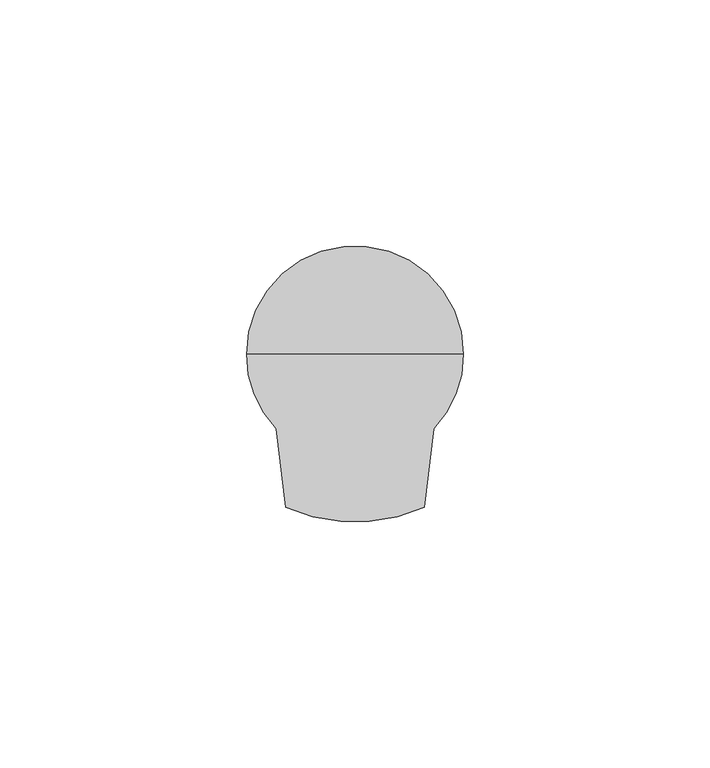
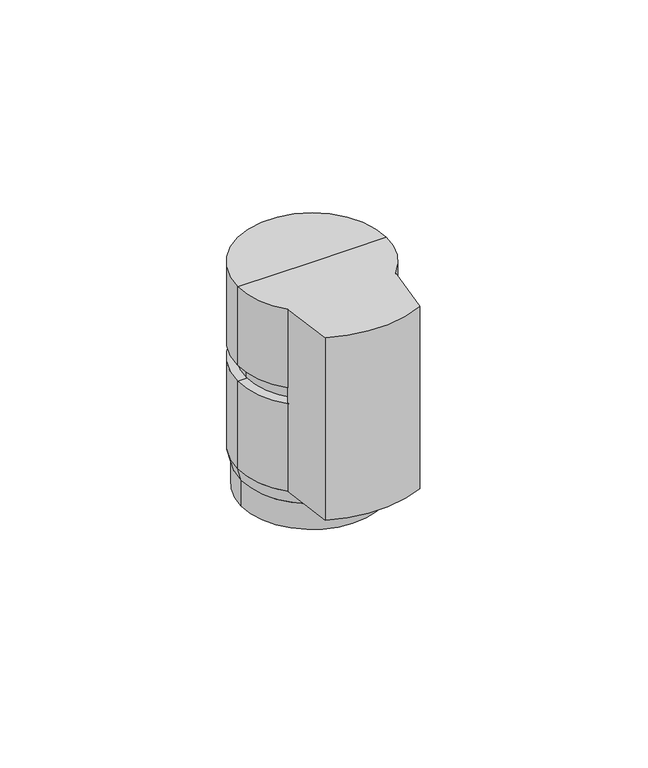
"""IFC4 building model written with IfcOpenShell, lengths in millimetres: valve geometry, 400_56_KOMF_ventiel_electrisch_24-230V : 24V, stroomloos gesloten."""

from ifc_helpers import new_model, si_unit, frame, origin, origin_with_axes, place, context, project, spatial, polyline, circle_curve, source, transform, mapped, element, save
from ifc_brep_helpers import plane_surface, cylinder_surface, revolved_surface, advanced_brep


def valve_dab7beca(model_context):
    return source(origin(), model_context, "Body", "AdvancedBrep", [
        advanced_brep(
        [(-20.950136, 0.0, 0.0), (-18.5, 0.0, 0.0), (18.5, 0.0, 0.0), (20.950136, 0.0, 0.0), (22.0, 0.0, 39.5), (16.0, -15.0996689, 39.5), (16.0, -15.0996689, 12.0), (22.0, 0.0, 12.0), (-22.0, 0.0, 12.0), (-16.0, -15.0996689, 12.0), (-16.0, -15.0996689, 39.5), (-22.0, 0.0, 39.5), (-9.9703428, 0.0, 39.5), (9.9703428, 0.0, 39.5), (9.9703428, 0.0, 44.5), (-9.9703428, 0.0, 44.5), (22.0, 0.0, 44.5), (16.0, -15.0996689, 44.5), (-16.0, -15.0996689, 44.5), (-22.0, 0.0, 44.5), (-16.0, -15.0996689, 69.0), (-22.0, 0.0, 69.0), (22.0, 0.0, 69.0), (16.0, -15.0996689, 69.0), (0.0, 0.0, 69.0), (-14.0, -30.9838668, 69.0), (14.0, -30.9838668, 69.0), (-14.0, -30.9838668, 12.0), (14.0, -30.9838668, 12.0), (20.950136, 0.0, 8.0), (-20.950136, 0.0, 8.0), (-18.5, 0.0, 7.5), (0.0, 0.0, 7.5), (18.5, 0.0, 7.5)],
        [
            (0, 1),
            (1, 2, circle_curve(origin_with_axes(), 18.5)),
            (2, 3),
            (3, 0, circle_curve(frame((0.0, 0.0, 0.0), z_axis=(0.0, 0.0, -1.0), x_axis=(1.0, 0.0, 0.0)), 20.950136)),
            (2, 1, circle_curve(origin_with_axes(), 18.5)),
            (0, 3, circle_curve(frame((0.0, 0.0, 0.0), z_axis=(0.0, 0.0, -1.0), x_axis=(1.0, 0.0, 0.0)), 20.950136)),
            (4, 5, circle_curve(frame((0.0, 0.0, 39.5), z_axis=(0.0, 0.0, -1.0), x_axis=(1.0, 0.0, 0.0)), 22.0)),
            (5, 6),
            (6, 7, circle_curve(frame((0.0, 0.0, 12.0), z_axis=(0.0, 0.0, 1.0), x_axis=(1.0, 0.0, 0.0)), 22.0)),
            (7, 4),
            (8, 9, circle_curve(frame((0.0, 0.0, 12.0), z_axis=(0.0, 0.0, 1.0), x_axis=(1.0, 0.0, 0.0)), 22.0)),
            (9, 10),
            (10, 11, circle_curve(frame((0.0, 0.0, 39.5), z_axis=(0.0, 0.0, -1.0), x_axis=(1.0, 0.0, 0.0)), 22.0)),
            (11, 8),
            (7, 8, circle_curve(frame((0.0, 0.0, 12.0), z_axis=(0.0, 0.0, 1.0), x_axis=(1.0, 0.0, 0.0)), 22.0)),
            (11, 4, circle_curve(frame((0.0, 0.0, 39.5), z_axis=(0.0, 0.0, -1.0), x_axis=(1.0, 0.0, 0.0)), 22.0)),
            (12, 11),
            (10, 5, circle_curve(frame((0.0, 0.0, 39.5), z_axis=(0.0, 0.0, 1.0), x_axis=(1.0, 0.0, 0.0)), 22.0)),
            (4, 13),
            (13, 12, circle_curve(frame((0.0, 0.0, 39.5), z_axis=(0.0, 0.0, -1.0), x_axis=(1.0, 0.0, 0.0)), 9.9703428)),
            (12, 13, circle_curve(frame((0.0, 0.0, 39.5), z_axis=(0.0, 0.0, -1.0), x_axis=(1.0, 0.0, 0.0)), 9.9703428)),
            (13, 14),
            (14, 15, circle_curve(frame((0.0, 0.0, 44.5), z_axis=(0.0, 0.0, -1.0), x_axis=(1.0, 0.0, 0.0)), 9.9703428)),
            (15, 12),
            (15, 14, circle_curve(frame((0.0, 0.0, 44.5), z_axis=(0.0, 0.0, -1.0), x_axis=(1.0, 0.0, 0.0)), 9.9703428)),
            (14, 16),
            (16, 17, circle_curve(frame((0.0, 0.0, 44.5), z_axis=(0.0, 0.0, -1.0), x_axis=(1.0, 0.0, 0.0)), 22.0)),
            (17, 18, circle_curve(frame((0.0, 0.0, 44.5), z_axis=(0.0, 0.0, -1.0), x_axis=(1.0, 0.0, 0.0)), 22.0)),
            (18, 19, circle_curve(frame((0.0, 0.0, 44.5), z_axis=(0.0, 0.0, -1.0), x_axis=(1.0, 0.0, 0.0)), 22.0)),
            (19, 15),
            (19, 16, circle_curve(frame((0.0, 0.0, 44.5), z_axis=(0.0, 0.0, -1.0), x_axis=(1.0, 0.0, 0.0)), 22.0)),
            (18, 20),
            (20, 21, circle_curve(frame((0.0, 0.0, 69.0), z_axis=(0.0, 0.0, -1.0), x_axis=(1.0, 0.0, 0.0)), 22.0)),
            (21, 19),
            (22, 23, circle_curve(frame((0.0, 0.0, 69.0), z_axis=(0.0, 0.0, -1.0), x_axis=(1.0, 0.0, 0.0)), 22.0)),
            (23, 17),
            (16, 22),
            (21, 22, circle_curve(frame((0.0, 0.0, 69.0), z_axis=(0.0, 0.0, -1.0), x_axis=(1.0, 0.0, 0.0)), 22.0)),
            (24, 21),
            (20, 25),
            (25, 26, circle_curve(frame((0.0, 0.0, 69.0), z_axis=(0.0, 0.0, 1.0), x_axis=(1.0, 0.0, 0.0)), 34.0)),
            (26, 23),
            (22, 24),
            (18, 10),
            (9, 27),
            (27, 25),
            (17, 5),
            (26, 28),
            (28, 6),
            (27, 28, circle_curve(frame((0.0, 0.0, 12.0), z_axis=(0.0, 0.0, 1.0), x_axis=(1.0, 0.0, 0.0)), 34.0)),
            (3, 29),
            (29, 30, circle_curve(frame((0.0, 0.0, 8.0), z_axis=(0.0, 0.0, -1.0), x_axis=(1.0, 0.0, 0.0)), 20.950136)),
            (30, 0),
            (30, 29, circle_curve(frame((0.0, 0.0, 8.0), z_axis=(0.0, 0.0, -1.0), x_axis=(1.0, 0.0, 0.0)), 20.950136)),
            (29, 7),
            (6, 9, circle_curve(frame((0.0, 0.0, 12.0), z_axis=(0.0, 0.0, -1.0), x_axis=(1.0, 0.0, 0.0)), 22.0)),
            (8, 30),
            (31, 32),
            (32, 33),
            (33, 31, circle_curve(frame((0.0, 0.0, 7.5), z_axis=(0.0, 0.0, -1.0), x_axis=(1.0, 0.0, 0.0)), 18.5)),
            (31, 33, circle_curve(frame((0.0, 0.0, 7.5), z_axis=(0.0, 0.0, -1.0), x_axis=(1.0, 0.0, 0.0)), 18.5)),
            (1, 31),
            (33, 2),
        ],
        [
            plane_surface(frame((0.0, 0.0, 0.0), z_axis=(0.0, 0.0, -1.0), x_axis=(1.0, 0.0, 0.0))),
            cylinder_surface(frame((0.0, 0.0, 1789.7688894), z_axis=(0.0, 0.0, 1.0), x_axis=(1.0, 0.0, 0.0)), 22.0),
            plane_surface(frame((0.0, 0.0, 39.5), z_axis=(0.0, 0.0, 1.0), x_axis=(1.0, 0.0, 0.0))),
            cylinder_surface(frame((0.0, 0.0, 1789.7688894), z_axis=(0.0, 0.0, 1.0), x_axis=(1.0, 0.0, 0.0)), 9.9703428),
            plane_surface(frame((0.0, 0.0, 44.5), z_axis=(0.0, 0.0, -1.0), x_axis=(1.0, 0.0, 0.0))),
            plane_surface(frame((0.0, 0.0, 69.0), z_axis=(0.0, 0.0, 1.0), x_axis=(1.0, 0.0, 0.0))),
            plane_surface(frame((-14.0, -30.9838668, 69.0), z_axis=(-0.992166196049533, -0.12492493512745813, 0.0), x_axis=(0.0, 0.0, -1.0))),
            revolved_surface(polyline([(22.0, 0.0, 39.5), (22.0, 0.0, 44.5)]), (0.0, 0.0, 12.0), (0.0, 0.0, -1.0)),
            plane_surface(frame((16.0, -15.0996689, 69.0), z_axis=(0.9921661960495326, -0.12492493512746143, 0.0), x_axis=(0.0, 0.0, -1.0))),
            cylinder_surface(frame((0.0, 0.0, 12.0), z_axis=(0.0, 0.0, 1.0), x_axis=(1.0, 0.0, 0.0)), 34.0),
            cylinder_surface(frame((0.0, 0.0, 1789.7688894), z_axis=(0.0, 0.0, 1.0), x_axis=(1.0, 0.0, 0.0)), 20.950136),
            revolved_surface(polyline([(20.950136, 0.0, 8.0), (22.0, 0.0, 12.0)]), (0.0, 0.0, 1789.7688894), (0.0, 0.0, 1.0)),
            plane_surface(frame((-16.1558591, -13.8618204, 12.0), z_axis=(0.0, 0.0, -1.0), x_axis=(0.12492493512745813, -0.992166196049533, 0.0))),
            plane_surface(frame((0.0, 0.0, 7.5), z_axis=(0.0, 0.0, -1.0), x_axis=(1.0, 0.0, 0.0))),
            revolved_surface(polyline([(18.5, 0.0, 7.5), (18.5, 0.0, 0.0)]), (0.0, 0.0, 1789.7688894), (0.0, 0.0, 1.0)),
        ],
        [
            (0, [[1, 2, 3, 4]]),
            (0, [[5, -1, 6, -3]]),
            (1, [[7, 8, 9, 10]]),
            (1, [[11, 12, 13, 14]]),
            (1, [[15, -14, 16, -10]]),
            (2, [[17, -13, 18, -7, 19, 20]]),
            (2, [[-17, 21, -19, -16]]),
            (3, [[22, 23, 24, -20]]),
            (3, [[-24, 25, -22, -21]]),
            (4, [[26, 27, 28, 29, 30, -23]]),
            (4, [[-30, 31, -26, -25]]),
            (1, [[-29, 32, 33, 34]]),
            (1, [[35, 36, -27, 37]]),
            (1, [[-34, 38, -37, -31]]),
            (5, [[39, -33, 40, 41, 42, -35, 43]]),
            (5, [[-39, -43, -38]]),
            (6, [[-32, 44, -12, 45, 46, -40]]),
            (7, [[-28, 47, -18, -44]]),
            (8, [[48, 49, -8, -47, -36, -42]]),
            (9, [[-46, 50, -48, -41]]),
            (10, [[51, 52, 53, -4]]),
            (10, [[-53, 54, -51, -6]]),
            (11, [[55, -9, 56, -11, 57, -52]]),
            (11, [[-55, -54, -57, -15]]),
            (12, [[-45, -56, -49, -50]]),
            (13, [[58, 59, 60]]),
            (13, [[-58, 61, -59]]),
            (14, [[62, -60, 63, -2]]),
            (14, [[-63, -61, -62, -5]]),
        ],
    ),
        advanced_brep(
        [(-9.9703428, 0.0, 44.5), (-19.5, 0.0, 44.5), (19.5, 0.0, 44.5), (9.9703428, 0.0, 44.5), (-9.9703428, 0.0, 39.5), (9.9703428, 0.0, 39.5), (-19.5, 0.0, 39.5), (19.5, 0.0, 39.5)],
        [
            (0, 1),
            (1, 2, circle_curve(frame((0.0, 0.0, 44.5), z_axis=(0.0, 0.0, 1.0), x_axis=(1.0, 0.0, 0.0)), 19.5)),
            (2, 3),
            (3, 0, circle_curve(frame((0.0, 0.0, 44.5), z_axis=(0.0, 0.0, -1.0), x_axis=(1.0, 0.0, 0.0)), 9.9703428)),
            (2, 1, circle_curve(frame((0.0, 0.0, 44.5), z_axis=(0.0, 0.0, 1.0), x_axis=(1.0, 0.0, 0.0)), 19.5)),
            (0, 3, circle_curve(frame((0.0, 0.0, 44.5), z_axis=(0.0, 0.0, -1.0), x_axis=(1.0, 0.0, 0.0)), 9.9703428)),
            (4, 0),
            (3, 5),
            (5, 4, circle_curve(frame((0.0, 0.0, 39.5), z_axis=(0.0, 0.0, -1.0), x_axis=(1.0, 0.0, 0.0)), 9.9703428)),
            (4, 5, circle_curve(frame((0.0, 0.0, 39.5), z_axis=(0.0, 0.0, -1.0), x_axis=(1.0, 0.0, 0.0)), 9.9703428)),
            (6, 4),
            (5, 7),
            (7, 6, circle_curve(frame((0.0, 0.0, 39.5), z_axis=(0.0, 0.0, -1.0), x_axis=(1.0, 0.0, 0.0)), 19.5)),
            (6, 7, circle_curve(frame((0.0, 0.0, 39.5), z_axis=(0.0, 0.0, -1.0), x_axis=(1.0, 0.0, 0.0)), 19.5)),
            (1, 6),
            (7, 2),
        ],
        [
            plane_surface(frame((0.0, 0.0, 44.5), z_axis=(0.0, 0.0, 1.0), x_axis=(1.0, 0.0, 0.0))),
            revolved_surface(polyline([(9.9703428, 0.0, 44.5), (9.9703428, 0.0, 39.5)]), (0.0, 0.0, 59.5), (0.0, 0.0, 1.0)),
            plane_surface(frame((0.0, 0.0, 39.5), z_axis=(0.0, 0.0, -1.0), x_axis=(1.0, 0.0, 0.0))),
            cylinder_surface(frame((0.0, 0.0, 59.5), z_axis=(0.0, 0.0, 1.0), x_axis=(1.0, 0.0, 0.0)), 19.5),
        ],
        [
            (0, [[1, 2, 3, 4]]),
            (0, [[-3, 5, -1, 6]]),
            (1, [[7, -4, 8, 9]]),
            (1, [[-8, -6, -7, 10]]),
            (2, [[11, -9, 12, 13]]),
            (2, [[-12, -10, -11, 14]]),
            (3, [[15, -13, 16, -2]]),
            (3, [[-16, -14, -15, -5]]),
        ],
    ),
    ])


if __name__ == "__main__":
    model = new_model("IFC4")
    model_context = context("Model", 3, world=origin())
    ifc_project = project(units=[si_unit("LENGTHUNIT", "METRE", prefix="MILLI")], contexts=[model_context])
    site = spatial("IfcSite", under=ifc_project)
    building = spatial("IfcBuilding", under=site)
    placement = place(None, origin())
    valve_shape = valve_dab7beca(model_context)
    element("IfcValve", 1, ObjectType="400_56_KOMF_ventiel_electrisch_24-230V : 24V, stroomloos gesloten", at=placement, inside=building, context=model_context, shape_type="MappedRepresentation", body=[
        mapped(valve_shape, transform((0.0, 0.0, 0.0), x_axis=(1.0, 0.0, 0.0), y_axis=(0.0, 1.0, 0.0), z_axis=(0.0, 0.0, 1.0))),
    ])
    save(model, "model.ifc")
